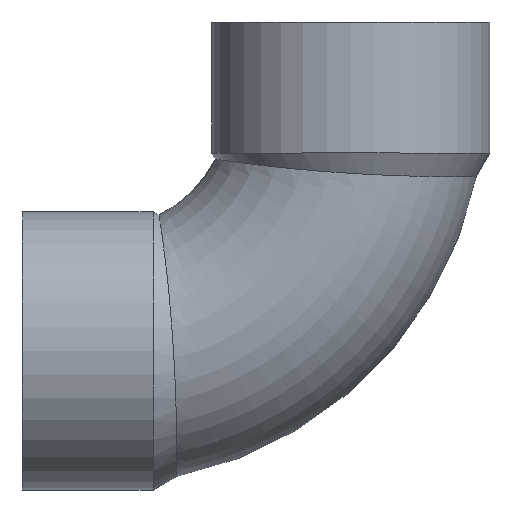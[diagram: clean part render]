
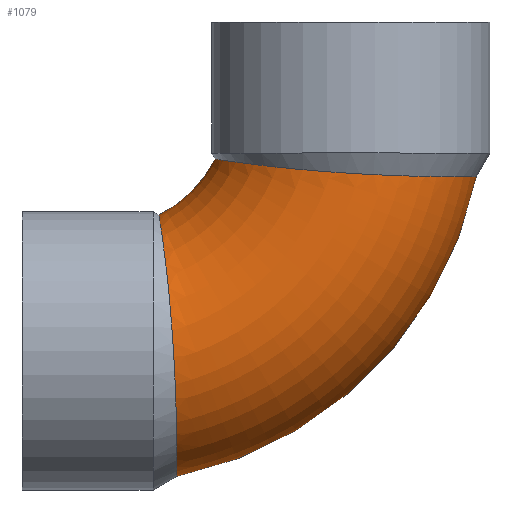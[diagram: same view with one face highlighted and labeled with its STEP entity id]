
A CAD part, top view. The second image highlights one B-rep face of the part: STEP entity #1079.
In plain terms, the highlighted toroidal (fillet/blend) face has major radius 67 mm and minor radius 33.35 mm.
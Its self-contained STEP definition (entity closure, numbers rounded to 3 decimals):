
#49=CARTESIAN_POINT('',(19.918,-98.353,0.0));
#50=VERTEX_POINT('',#49);
#51=CARTESIAN_POINT('',(98.353,-19.918,0.0));
#52=VERTEX_POINT('',#51);
#53=CARTESIAN_POINT('',(0.0,0.0,0.));
#54=DIRECTION('',(0.0,0.0,1.0));
#55=DIRECTION('',(1.0,0.0,0.0));
#56=AXIS2_PLACEMENT_3D('',#53,#54,#55);
#57=CIRCLE('',#56,100.35);
#58=EDGE_CURVE('',#50,#52,#57,.T.);
#60=CARTESIAN_POINT('',(15.291,-29.975,0.));
#61=VERTEX_POINT('',#60);
#89=CARTESIAN_POINT('',(29.975,-15.291,0.));
#90=VERTEX_POINT('',#89);
#91=CARTESIAN_POINT('',(0.0,0.0,0.));
#92=DIRECTION('',(0.0,0.0,-1.0));
#93=DIRECTION('',(1.0,0.0,0.0));
#94=AXIS2_PLACEMENT_3D('',#91,#92,#93);
#95=CIRCLE('',#94,33.65);
#96=EDGE_CURVE('',#90,#61,#95,.T.);
#307=CARTESIAN_POINT('',(15.291,-29.975,0.));
#308=CARTESIAN_POINT('',(15.291,-29.975,0.716));
#309=CARTESIAN_POINT('',(15.295,-29.999,1.431));
#310=CARTESIAN_POINT('',(15.318,-30.14,3.548));
#311=CARTESIAN_POINT('',(15.348,-30.326,4.942));
#312=CARTESIAN_POINT('',(15.519,-31.391,10.272));
#313=CARTESIAN_POINT('',(15.76,-32.911,14.033));
#314=CARTESIAN_POINT('',(16.412,-37.469,21.235));
#315=CARTESIAN_POINT('',(16.83,-40.621,24.512));
#316=CARTESIAN_POINT('',(17.648,-47.8,29.53));
#317=CARTESIAN_POINT('',(18.041,-51.721,31.305));
#318=CARTESIAN_POINT('',(18.732,-59.9,33.327));
#319=CARTESIAN_POINT('',(19.026,-64.089,33.598));
#320=CARTESIAN_POINT('',(19.488,-72.303,32.654));
#321=CARTESIAN_POINT('',(19.654,-76.268,31.469));
#322=CARTESIAN_POINT('',(19.871,-83.543,27.784));
#323=CARTESIAN_POINT('',(19.923,-86.805,25.331));
#324=CARTESIAN_POINT('',(19.965,-92.295,19.389));
#325=CARTESIAN_POINT('',(19.955,-94.479,15.953));
#326=CARTESIAN_POINT('',(19.931,-97.548,8.323));
#327=CARTESIAN_POINT('',(19.918,-98.353,4.183));
#328=CARTESIAN_POINT('',(19.918,-98.353,0.0));
#329=B_SPLINE_CURVE_WITH_KNOTS('',3,(#307,#308,#309,#310,#311,#312,#313,#314,#315,#316,#317,#318,#319,#320,#321,#322,#323,#324,#325,#326,#327,#328),.UNSPECIFIED.,.F.,.U.,(4,2,2,2,2,2,2,2,2,2,4),(-10.647,-10.432,-10.01,-8.8,-7.446,-6.163,-4.913,-3.681,-2.467,-1.255,0.0),.UNSPECIFIED.);
#330=EDGE_CURVE('',#61,#50,#329,.T.);
#802=CARTESIAN_POINT('',(98.353,-19.918,0.0));
#803=CARTESIAN_POINT('',(98.353,-19.918,1.285));
#804=CARTESIAN_POINT('',(98.277,-19.919,2.569));
#805=CARTESIAN_POINT('',(97.614,-19.928,8.158));
#806=CARTESIAN_POINT('',(96.246,-19.947,12.322));
#807=CARTESIAN_POINT('',(91.945,-19.961,19.946));
#808=CARTESIAN_POINT('',(89.035,-19.954,23.314));
#809=CARTESIAN_POINT('',(82.022,-19.835,28.805));
#810=CARTESIAN_POINT('',(77.967,-19.721,30.848));
#811=CARTESIAN_POINT('',(69.24,-19.336,33.293));
#812=CARTESIAN_POINT('',(64.642,-19.066,33.644));
#813=CARTESIAN_POINT('',(55.54,-18.388,32.56));
#814=CARTESIAN_POINT('',(51.119,-17.984,31.116));
#815=CARTESIAN_POINT('',(43.368,-17.161,26.741));
#816=CARTESIAN_POINT('',(40.043,-16.75,23.944));
#817=CARTESIAN_POINT('',(35.125,-16.085,17.869));
#818=CARTESIAN_POINT('',(33.352,-15.821,14.807));
#819=CARTESIAN_POINT('',(31.256,-15.498,9.302));
#820=CARTESIAN_POINT('',(30.656,-15.401,7.002));
#821=CARTESIAN_POINT('',(30.138,-15.318,3.454));
#822=CARTESIAN_POINT('',(30.031,-15.3,2.246));
#823=CARTESIAN_POINT('',(29.981,-15.292,0.69));
#824=CARTESIAN_POINT('',(29.975,-15.291,0.345));
#825=CARTESIAN_POINT('',(29.975,-15.291,0.));
#826=B_SPLINE_CURVE_WITH_KNOTS('',3,(#802,#803,#804,#805,#806,#807,#808,#809,#810,#811,#812,#813,#814,#815,#816,#817,#818,#819,#820,#821,#822,#823,#824,#825),.UNSPECIFIED.,.F.,.U.,(4,2,2,2,2,2,2,2,2,2,2,4),(-21.293,-20.908,-19.605,-18.282,-16.934,-15.563,-14.179,-12.884,-11.826,-11.114,-10.75,-10.647),.UNSPECIFIED.);
#827=EDGE_CURVE('',#52,#90,#826,.T.);
#1068=CARTESIAN_POINT('',(0.0,0.0,0.0));
#1069=DIRECTION('',(0.0,0.0,1.0));
#1070=DIRECTION('',(1.0,0.0,0.0));
#1071=AXIS2_PLACEMENT_3D('',#1068,#1069,#1070);
#1072=TOROIDAL_SURFACE('',#1071,67.0,33.35);
#1073=ORIENTED_EDGE('',*,*,#58,.T.);
#1074=ORIENTED_EDGE('',*,*,#827,.T.);
#1075=ORIENTED_EDGE('',*,*,#96,.T.);
#1076=ORIENTED_EDGE('',*,*,#330,.T.);
#1077=EDGE_LOOP('',(#1073,#1074,#1075,#1076));
#1078=FACE_OUTER_BOUND('',#1077,.T.);
#1079=ADVANCED_FACE('',(#1078),#1072,.T.);
